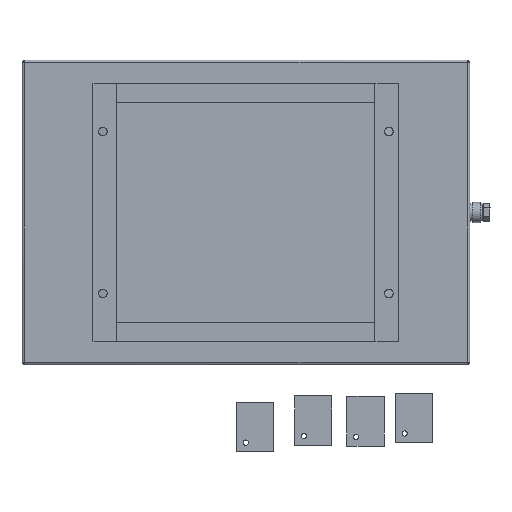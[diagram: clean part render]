
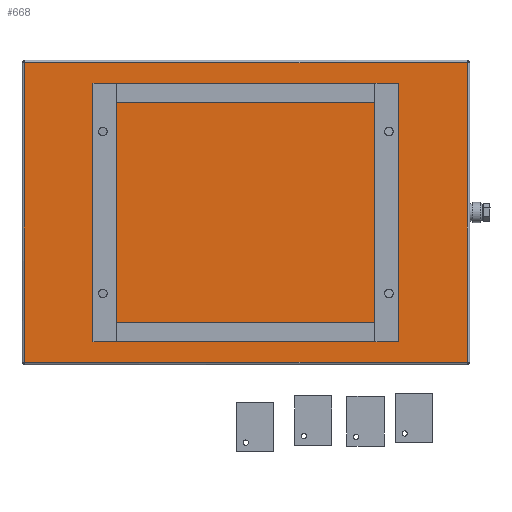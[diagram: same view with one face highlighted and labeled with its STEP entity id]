
A CAD part, front view. The second image highlights one B-rep face of the part: STEP entity #668.
In plain terms, the highlighted planar face has unit normal (0, -1, 0).
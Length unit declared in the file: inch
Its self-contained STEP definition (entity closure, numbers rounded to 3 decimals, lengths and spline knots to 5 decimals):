
#6 = LINE ( 'NONE', #3002, #1497 ) ;
#308 = VERTEX_POINT ( 'NONE', #750 ) ;
#448 = EDGE_CURVE ( 'NONE', #308, #1938, #1855, .T. ) ;
#450 = ORIENTED_EDGE ( 'NONE', *, *, #747, .T. ) ;
#649 = PLANE ( 'NONE',  #3170 ) ;
#668 = ADVANCED_FACE ( 'NONE', ( #2372 ), #649, .T. ) ;
#747 = EDGE_CURVE ( 'NONE', #3500, #3648, #1522, .T. ) ;
#750 = CARTESIAN_POINT ( 'NONE',  ( 35.803, -0.1345, -0.197 ) ) ;
#932 = DIRECTION ( 'NONE',  ( 1., 0., 0. ) ) ;
#1195 = CARTESIAN_POINT ( 'NONE',  ( 0.197, -0.1345, -0.13457 ) ) ;
#1204 = DIRECTION ( 'NONE',  ( 0., -1., 0. ) ) ;
#1223 = CARTESIAN_POINT ( 'NONE',  ( 0.13457, -0.1345, -24.303 ) ) ;
#1408 = ORIENTED_EDGE ( 'NONE', *, *, #2702, .T. ) ;
#1497 = VECTOR ( 'NONE', #3321, 39.37008 ) ;
#1522 = LINE ( 'NONE', #1223, #3654 ) ;
#1531 = LINE ( 'NONE', #1195, #1743 ) ;
#1541 = DIRECTION ( 'NONE',  ( 0., 0., -1. ) ) ;
#1654 = VECTOR ( 'NONE', #1819, 39.37008 ) ;
#1682 = CARTESIAN_POINT ( 'NONE',  ( 0.197, -0.1345, -24.303 ) ) ;
#1743 = VECTOR ( 'NONE', #2711, 39.37008 ) ;
#1819 = DIRECTION ( 'NONE',  ( -1., 0., 0. ) ) ;
#1855 = LINE ( 'NONE', #2157, #1654 ) ;
#1938 = VERTEX_POINT ( 'NONE', #3315 ) ;
#2157 = CARTESIAN_POINT ( 'NONE',  ( 35.86543, -0.1345, -0.197 ) ) ;
#2372 = FACE_OUTER_BOUND ( 'NONE', #2533, .T. ) ;
#2533 = EDGE_LOOP ( 'NONE', ( #450, #2860, #3341, #1408 ) ) ;
#2695 = EDGE_CURVE ( 'NONE', #3648, #308, #6, .T. ) ;
#2702 = EDGE_CURVE ( 'NONE', #1938, #3500, #1531, .T. ) ;
#2711 = DIRECTION ( 'NONE',  ( 0., 0., -1. ) ) ;
#2860 = ORIENTED_EDGE ( 'NONE', *, *, #2695, .T. ) ;
#3002 = CARTESIAN_POINT ( 'NONE',  ( 35.803, -0.1345, -24.36543 ) ) ;
#3170 = AXIS2_PLACEMENT_3D ( 'NONE', #3562, #1204, #1541 ) ;
#3315 = CARTESIAN_POINT ( 'NONE',  ( 0.197, -0.1345, -0.197 ) ) ;
#3321 = DIRECTION ( 'NONE',  ( 0., 0., 1. ) ) ;
#3341 = ORIENTED_EDGE ( 'NONE', *, *, #448, .T. ) ;
#3500 = VERTEX_POINT ( 'NONE', #1682 ) ;
#3507 = CARTESIAN_POINT ( 'NONE',  ( 35.803, -0.1345, -24.303 ) ) ;
#3562 = CARTESIAN_POINT ( 'NONE',  ( 0., -0.1345, 0. ) ) ;
#3648 = VERTEX_POINT ( 'NONE', #3507 ) ;
#3654 = VECTOR ( 'NONE', #932, 39.37008 ) ;
